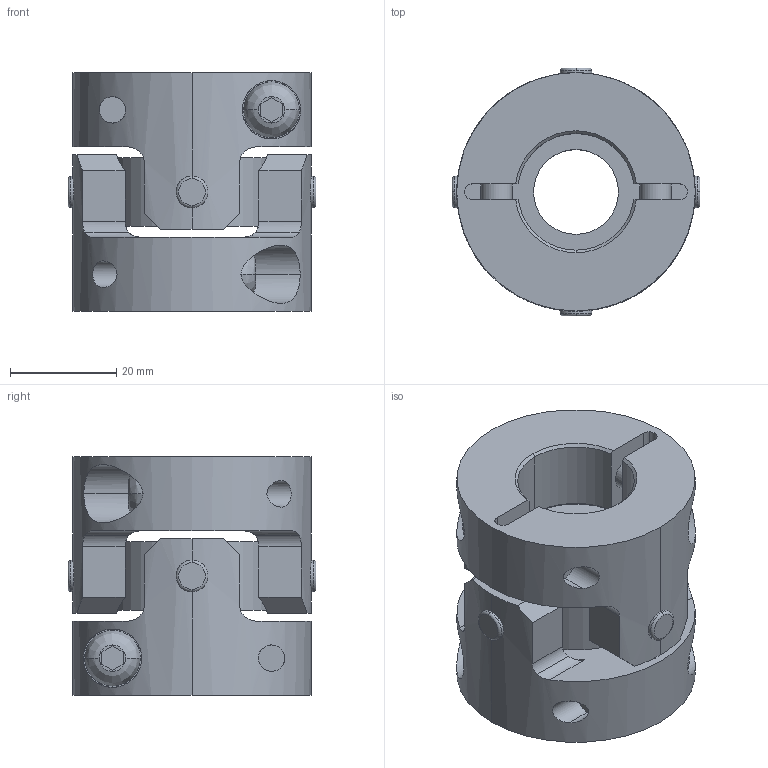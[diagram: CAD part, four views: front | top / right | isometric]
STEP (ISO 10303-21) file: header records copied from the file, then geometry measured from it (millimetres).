
FILE_DESCRIPTION((''),'2;1');
FILE_NAME('UA-45C-22×22.stp','2013-05-22T09:43:06',(''),(''),'AutoCAD STEP 2000i','AutoCAD 2000i',', , ');
FILE_SCHEMA(('CONFIG_CONTROL_DESIGN'));
Length unit declared in the file: millimetre
Products named in the file (8): UA-45C-17×17; 忣兜1; UA-4502-D17-1; BTN-M6; UA-4502-D17; UA-4502-D08-1; UA-4502-D08; UA45-SEN
Assembly tree (10 placements, depth 3):
  UA-45C-17×17
    忣兜1
    UA-4502-D17-1
      BTN-M6
    UA-4502-D17
      BTN-M6
    UA-4502-D08-1
      BTN-M6
    UA-4502-D08
      BTN-M6
    UA45-SEN
Bounding box: 46.73 x 46.73 x 45 mm (x, y, z)
Volume: 44722.1 mm3; surface area: 18994.5 mm2
Topology: 1 solids, 1 shells, 206 faces, 554 edges, 364 vertices
Faces by surface type: cylinder 96, plane 78, cone 16, bspline 8, torus 8
Entity records: 8551 total; most frequent: CARTESIAN_POINT 3195, ORIENTED_EDGE 1108, DIRECTION 1072, EDGE_CURVE 554, AXIS2_PLACEMENT_3D 413, VERTEX_POINT 364, VECTOR 246, LINE 246
